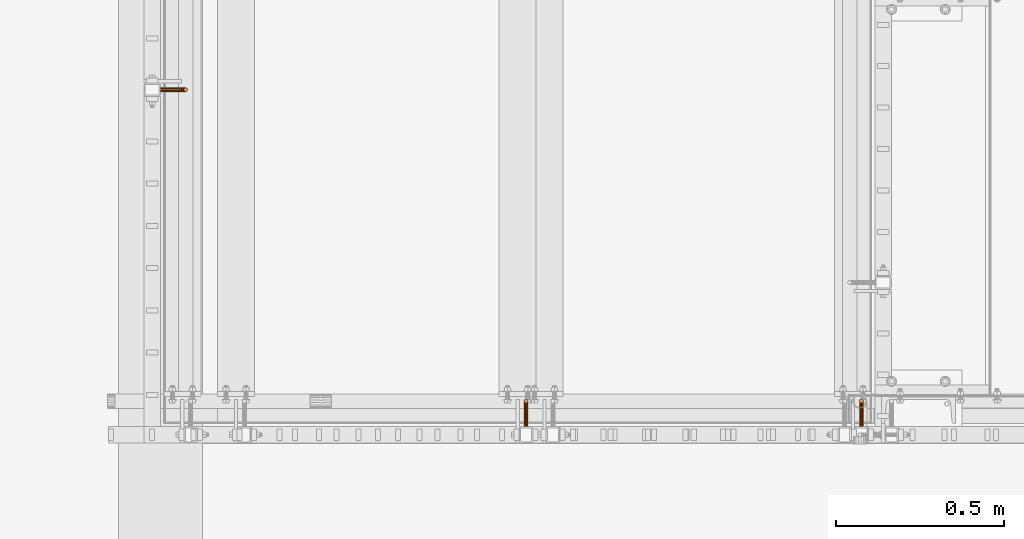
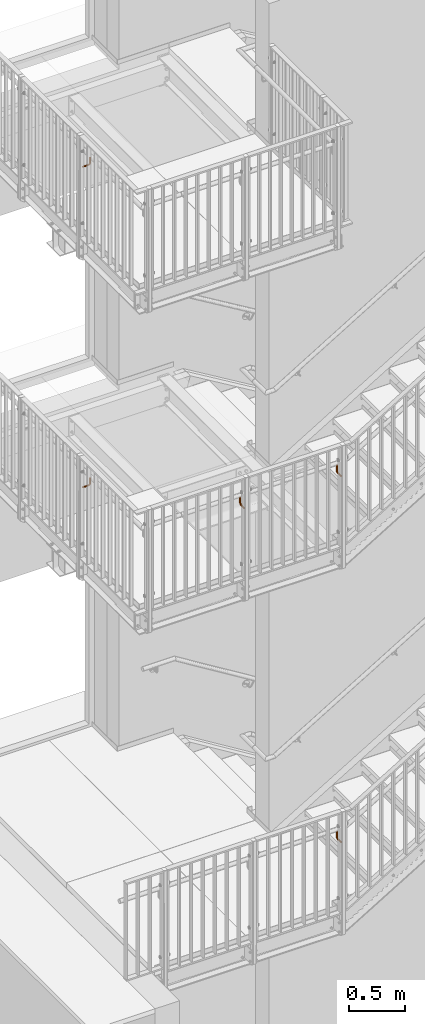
# One storey, part 371 of 410: 5 proxies.
"""IFC2X3 building model written with IfcOpenShell, lengths in millimetres."""

from ifc_helpers import new_model, entity, si_unit, converted_unit, origin_with_axes, place, context, project, spatial, faceted_brep, element, save


model = new_model("IFC2X3")

# Units and contexts
model_context = context("Model", 3, precision=1e-09, world=origin_with_axes())
ifc_project = project(units=[si_unit("LENGTHUNIT", "METRE", prefix="MILLI"), si_unit("AREAUNIT", "SQUARE_METRE"), si_unit("VOLUMEUNIT", "CUBIC_METRE"), converted_unit("PLANEANGLEUNIT", "DEGREE", entity("IfcPlaneAngleMeasure", 0.01745329), si_unit("PLANEANGLEUNIT", "RADIAN"), dimensions=[0, 0, 0, 0, 0, 0, 0])], contexts=[model_context])

# Site, building, storey
site_placement = place(None, origin_with_axes())
site = spatial("IfcSite", under=ifc_project, at=site_placement, Name="mKR Teilneubau & Sanierung BA1 - Ostfildern", CompositionType="ELEMENT")
building_placement = place(site_placement, origin_with_axes())
building = spatial("IfcBuilding", under=site, at=building_placement, Name="Struktur 1", CompositionType="ELEMENT")
storey_placement = place(building_placement, origin_with_axes())
storey = spatial("IfcBuildingStorey", under=building, at=storey_placement, Name="Default Storey", CompositionType="ELEMENT", Elevation=0.0)

# Proxies
proxy_1_placement = place(None, origin_with_axes())
element("IfcBuildingElementProxy", 1, at=proxy_1_placement, inside=storey, ObjectType="-", context=model_context, shape_type="Brep", body=[
    faceted_brep([(-1784.99853167, 15487.999999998, 4738.6), (-1784.99853167, 15430.999999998, 4738.6), (-1781.99853167, 15430.999999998, 4737.796152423), (-1781.99853167, 15487.999999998, 4737.796152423), (-1790.194684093, 15430.999999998, 4729.6), (-1787.99853167, 15430.999999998, 4727.403847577), (-1784.99853167, 15430.999999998, 4726.6), (-1781.99853167, 15430.999999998, 4727.403847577), (-1779.802379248, 15430.999999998, 4729.6), (-1778.99853167, 15430.999999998, 4732.6), (-1779.802379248, 15430.999999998, 4735.6), (-1787.99853167, 15430.999999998, 4737.796152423), (-1790.194684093, 15430.999999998, 4735.6), (-1790.99853167, 15430.999999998, 4732.6), (-1787.99853167, 15487.999999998, 4737.796152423), (-1781.99853167, 15492.899820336, 4738.770787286), (-1784.99853167, 15492.592201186, 4739.51344561), (-1779.802379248, 15487.999999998, 4735.6), (-1787.99853167, 15492.899820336, 4738.770787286), (-1784.99853167, 15496.485281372, 4742.114718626), (-1787.99853167, 15497.053687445, 4741.546312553), (-1781.99853167, 15497.053687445, 4741.546312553), (-1779.802379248, 15493.740251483, 4736.741807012), (-1790.194684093, 15487.999999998, 4735.6), (-1784.99853167, 15499.086554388, 4746.007798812), (-1787.99853167, 15499.829212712, 4745.700179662), (-1787.99853167, 15500.803847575, 4750.6), (-1787.99853167, 15500.803847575, 4807.6), (-1790.194684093, 15502.999999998, 4807.6), (-1790.194684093, 15502.999999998, 4750.6), (-1784.99853167, 15499.999999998, 4750.6), (-1784.99853167, 15499.999999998, 4807.6), (-1778.99853167, 15487.999999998, 4732.6), (-1790.194684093, 15501.858192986, 4744.859748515), (-1790.194684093, 15493.740251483, 4736.741807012), (-1790.194684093, 15498.606601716, 4739.993398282), (-1779.802379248, 15508.999999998, 4807.6), (-1781.99853167, 15511.196152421, 4807.6), (-1784.99853167, 15511.999999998, 4807.6), (-1787.99853167, 15511.196152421, 4807.6), (-1790.194684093, 15508.999999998, 4807.6), (-1790.99853167, 15505.999999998, 4807.6), (-1781.99853167, 15500.803847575, 4807.6), (-1779.802379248, 15502.999999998, 4807.6), (-1778.99853167, 15505.999999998, 4807.6), (-1781.99853167, 15499.829212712, 4745.700179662), (-1778.99853167, 15494.888301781, 4733.970168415), (-1779.802379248, 15498.606601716, 4739.993398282), (-1790.99853167, 15487.999999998, 4732.6), (-1790.99853167, 15505.999999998, 4750.6), (-1781.99853167, 15500.803847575, 4750.6), (-1779.802379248, 15487.999999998, 4729.6), (-1790.99853167, 15504.629831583, 4743.711698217), (-1790.99853167, 15494.888301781, 4733.970168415), (-1790.99853167, 15500.727922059, 4737.872077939), (-1779.802379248, 15501.858192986, 4744.859748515), (-1779.802379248, 15496.036352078, 4731.198529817), (-1778.99853167, 15500.727922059, 4737.872077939), (-1781.99853167, 15487.999999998, 4727.403847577), (-1784.99853167, 15487.999999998, 4726.6), (-1787.99853167, 15487.999999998, 4727.403847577), (-1790.194684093, 15487.999999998, 4729.6), (-1790.194684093, 15508.999999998, 4750.6), (-1779.802379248, 15502.999999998, 4750.6), (-1790.194684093, 15507.401470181, 4742.56364792), (-1790.194684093, 15496.036352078, 4731.198529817), (-1790.194684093, 15502.849242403, 4735.750757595), (-1778.99853167, 15504.629831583, 4743.711698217), (-1781.99853167, 15496.876783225, 4729.169549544), (-1779.802379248, 15502.849242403, 4735.750757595), (-1784.99853167, 15497.184402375, 4728.42689122), (-1787.99853167, 15496.876783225, 4729.169549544), (-1787.99853167, 15511.196152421, 4750.6), (-1778.99853167, 15505.999999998, 4750.6), (-1787.99853167, 15509.430450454, 4741.723216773), (-1787.99853167, 15504.402156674, 4734.197843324), (-1779.802379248, 15507.401470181, 4742.56364792), (-1781.99853167, 15504.402156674, 4734.197843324), (-1784.99853167, 15511.999999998, 4750.6), (-1784.99853167, 15504.970562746, 4733.629437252), (-1779.802379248, 15508.999999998, 4750.6), (-1784.99853167, 15510.173108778, 4741.415597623), (-1781.99853167, 15509.430450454, 4741.723216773), (-1781.99853167, 15511.196152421, 4750.6)], [[[0, 1, 2, 3]], [[4, 5, 6, 7, 8, 9, 10, 2, 1, 11, 12, 13]], [[1, 0, 14, 11]], [[0, 3, 15, 16]], [[3, 2, 10, 17]], [[16, 18, 14, 0]], [[19, 20, 18, 16]], [[16, 15, 21, 19]], [[3, 17, 22, 15]], [[11, 14, 23, 12]], [[20, 19, 24, 25]], [[26, 27, 28, 29]], [[27, 26, 30, 31]], [[17, 10, 9, 32]], [[26, 29, 33, 25]], [[18, 34, 23, 14]], [[20, 35, 34, 18]], [[25, 33, 35, 20]], [[36, 37, 38, 39, 40, 41, 28, 27, 31, 42, 43, 44]], [[25, 24, 30, 26]], [[19, 21, 45, 24]], [[17, 32, 46, 22]], [[15, 22, 47, 21]], [[12, 23, 48, 13]], [[29, 28, 41, 49]], [[31, 30, 50, 42]], [[32, 9, 8, 51]], [[29, 49, 52, 33]], [[34, 53, 48, 23]], [[35, 54, 53, 34]], [[33, 52, 54, 35]], [[24, 45, 50, 30]], [[21, 47, 55, 45]], [[32, 51, 56, 46]], [[22, 46, 57, 47]], [[7, 58, 51, 8]], [[6, 59, 58, 7]], [[5, 60, 59, 6]], [[4, 61, 60, 5]], [[13, 48, 61, 4]], [[49, 41, 40, 62]], [[42, 50, 63, 43]], [[49, 62, 64, 52]], [[53, 65, 61, 48]], [[54, 66, 65, 53]], [[52, 64, 66, 54]], [[45, 55, 63, 50]], [[47, 57, 67, 55]], [[51, 58, 68, 56]], [[46, 56, 69, 57]], [[58, 59, 70, 68]], [[59, 60, 71, 70]], [[60, 61, 65, 71]], [[62, 40, 39, 72]], [[43, 63, 73, 44]], [[62, 72, 74, 64]], [[66, 75, 71, 65]], [[64, 74, 75, 66]], [[55, 67, 73, 63]], [[57, 69, 76, 67]], [[56, 68, 77, 69]], [[72, 39, 38, 78]], [[68, 70, 79, 77]], [[70, 71, 75, 79]], [[44, 73, 80, 36]], [[72, 78, 81, 74]], [[74, 81, 79, 75]], [[67, 76, 80, 73]], [[69, 77, 82, 76]], [[78, 38, 37, 83]], [[77, 79, 81, 82]], [[36, 80, 83, 37]], [[78, 83, 82, 81]], [[76, 82, 83, 80]]]),
])
proxy_2_placement = place(None, origin_with_axes())
element("IfcBuildingElementProxy", 2, at=proxy_2_placement, inside=storey, ObjectType="-", context=model_context, shape_type="Brep", body=[
    faceted_brep([(-1784.99853167, 15487.999999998, 738.6), (-1784.99853167, 15430.999999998, 738.6), (-1781.99853167, 15430.999999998, 737.796152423), (-1781.99853167, 15487.999999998, 737.796152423), (-1790.194684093, 15430.999999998, 729.6), (-1787.99853167, 15430.999999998, 727.403847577), (-1784.99853167, 15430.999999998, 726.6), (-1781.99853167, 15430.999999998, 727.403847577), (-1779.802379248, 15430.999999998, 729.6), (-1778.99853167, 15430.999999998, 732.6), (-1779.802379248, 15430.999999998, 735.6), (-1787.99853167, 15430.999999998, 737.796152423), (-1790.194684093, 15430.999999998, 735.6), (-1790.99853167, 15430.999999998, 732.6), (-1787.99853167, 15487.999999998, 737.796152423), (-1781.99853167, 15492.899820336, 738.770787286), (-1784.99853167, 15492.592201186, 739.51344561), (-1779.802379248, 15487.999999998, 735.6), (-1787.99853167, 15492.899820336, 738.770787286), (-1784.99853167, 15496.485281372, 742.114718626), (-1787.99853167, 15497.053687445, 741.546312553), (-1781.99853167, 15497.053687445, 741.546312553), (-1779.802379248, 15493.740251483, 736.741807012), (-1790.194684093, 15487.999999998, 735.6), (-1784.99853167, 15499.086554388, 746.007798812), (-1787.99853167, 15499.829212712, 745.700179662), (-1787.99853167, 15500.803847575, 750.6), (-1787.99853167, 15500.803847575, 807.6), (-1790.194684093, 15502.999999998, 807.6), (-1790.194684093, 15502.999999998, 750.6), (-1784.99853167, 15499.999999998, 750.6), (-1784.99853167, 15499.999999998, 807.6), (-1778.99853167, 15487.999999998, 732.6), (-1790.194684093, 15501.858192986, 744.859748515), (-1790.194684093, 15493.740251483, 736.741807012), (-1790.194684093, 15498.606601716, 739.993398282), (-1779.802379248, 15508.999999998, 807.6), (-1781.99853167, 15511.196152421, 807.6), (-1784.99853167, 15511.999999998, 807.6), (-1787.99853167, 15511.196152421, 807.6), (-1790.194684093, 15508.999999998, 807.6), (-1790.99853167, 15505.999999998, 807.6), (-1781.99853167, 15500.803847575, 807.6), (-1779.802379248, 15502.999999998, 807.6), (-1778.99853167, 15505.999999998, 807.6), (-1781.99853167, 15499.829212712, 745.700179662), (-1778.99853167, 15494.888301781, 733.970168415), (-1779.802379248, 15498.606601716, 739.993398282), (-1790.99853167, 15487.999999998, 732.6), (-1790.99853167, 15505.999999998, 750.6), (-1781.99853167, 15500.803847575, 750.6), (-1779.802379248, 15487.999999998, 729.6), (-1790.99853167, 15504.629831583, 743.711698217), (-1790.99853167, 15494.888301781, 733.970168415), (-1790.99853167, 15500.727922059, 737.872077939), (-1779.802379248, 15501.858192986, 744.859748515), (-1779.802379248, 15496.036352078, 731.198529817), (-1778.99853167, 15500.727922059, 737.872077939), (-1781.99853167, 15487.999999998, 727.403847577), (-1784.99853167, 15487.999999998, 726.6), (-1787.99853167, 15487.999999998, 727.403847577), (-1790.194684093, 15487.999999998, 729.6), (-1790.194684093, 15508.999999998, 750.6), (-1779.802379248, 15502.999999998, 750.6), (-1790.194684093, 15507.401470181, 742.56364792), (-1790.194684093, 15496.036352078, 731.198529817), (-1790.194684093, 15502.849242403, 735.750757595), (-1778.99853167, 15504.629831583, 743.711698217), (-1781.99853167, 15496.876783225, 729.169549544), (-1779.802379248, 15502.849242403, 735.750757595), (-1784.99853167, 15497.184402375, 728.42689122), (-1787.99853167, 15496.876783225, 729.169549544), (-1787.99853167, 15511.196152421, 750.6), (-1778.99853167, 15505.999999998, 750.6), (-1787.99853167, 15509.430450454, 741.723216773), (-1787.99853167, 15504.402156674, 734.197843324), (-1779.802379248, 15507.401470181, 742.56364792), (-1781.99853167, 15504.402156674, 734.197843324), (-1784.99853167, 15511.999999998, 750.6), (-1784.99853167, 15504.970562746, 733.629437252), (-1779.802379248, 15508.999999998, 750.6), (-1784.99853167, 15510.173108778, 741.415597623), (-1781.99853167, 15509.430450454, 741.723216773), (-1781.99853167, 15511.196152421, 750.6)], [[[0, 1, 2, 3]], [[4, 5, 6, 7, 8, 9, 10, 2, 1, 11, 12, 13]], [[1, 0, 14, 11]], [[0, 3, 15, 16]], [[3, 2, 10, 17]], [[16, 18, 14, 0]], [[19, 20, 18, 16]], [[16, 15, 21, 19]], [[3, 17, 22, 15]], [[11, 14, 23, 12]], [[20, 19, 24, 25]], [[26, 27, 28, 29]], [[27, 26, 30, 31]], [[17, 10, 9, 32]], [[26, 29, 33, 25]], [[18, 34, 23, 14]], [[20, 35, 34, 18]], [[25, 33, 35, 20]], [[36, 37, 38, 39, 40, 41, 28, 27, 31, 42, 43, 44]], [[25, 24, 30, 26]], [[19, 21, 45, 24]], [[17, 32, 46, 22]], [[15, 22, 47, 21]], [[12, 23, 48, 13]], [[29, 28, 41, 49]], [[31, 30, 50, 42]], [[32, 9, 8, 51]], [[29, 49, 52, 33]], [[34, 53, 48, 23]], [[35, 54, 53, 34]], [[33, 52, 54, 35]], [[24, 45, 50, 30]], [[21, 47, 55, 45]], [[32, 51, 56, 46]], [[22, 46, 57, 47]], [[7, 58, 51, 8]], [[6, 59, 58, 7]], [[5, 60, 59, 6]], [[4, 61, 60, 5]], [[13, 48, 61, 4]], [[49, 41, 40, 62]], [[42, 50, 63, 43]], [[49, 62, 64, 52]], [[53, 65, 61, 48]], [[54, 66, 65, 53]], [[52, 64, 66, 54]], [[45, 55, 63, 50]], [[47, 57, 67, 55]], [[51, 58, 68, 56]], [[46, 56, 69, 57]], [[58, 59, 70, 68]], [[59, 60, 71, 70]], [[60, 61, 65, 71]], [[62, 40, 39, 72]], [[43, 63, 73, 44]], [[62, 72, 74, 64]], [[66, 75, 71, 65]], [[64, 74, 75, 66]], [[55, 67, 73, 63]], [[57, 69, 76, 67]], [[56, 68, 77, 69]], [[72, 39, 38, 78]], [[68, 70, 79, 77]], [[70, 71, 75, 79]], [[44, 73, 80, 36]], [[72, 78, 81, 74]], [[74, 81, 79, 75]], [[67, 76, 80, 73]], [[69, 77, 82, 76]], [[78, 38, 37, 83]], [[77, 79, 81, 82]], [[36, 80, 83, 37]], [[78, 83, 82, 81]], [[76, 82, 83, 80]]]),
])
proxy_3_placement = place(None, origin_with_axes())
element("IfcBuildingElementProxy", 3, at=proxy_3_placement, inside=storey, ObjectType="-", context=model_context, shape_type="Brep", body=[
    faceted_brep([(-3817.9485317, 16434.999999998, 4738.6), (-3874.9485317, 16434.999999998, 4738.6), (-3874.9485317, 16431.999999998, 4737.796152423), (-3817.9485317, 16431.999999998, 4737.796152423), (-3874.9485317, 16440.19615242, 4729.6), (-3874.9485317, 16437.999999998, 4727.403847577), (-3874.9485317, 16434.999999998, 4726.6), (-3874.9485317, 16431.999999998, 4727.403847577), (-3874.9485317, 16429.803847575, 4729.6), (-3874.9485317, 16428.999999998, 4732.6), (-3874.9485317, 16429.803847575, 4735.6), (-3874.9485317, 16437.999999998, 4737.796152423), (-3874.9485317, 16440.19615242, 4735.6), (-3874.9485317, 16440.999999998, 4732.6), (-3817.9485317, 16437.999999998, 4737.796152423), (-3813.048711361, 16431.999999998, 4738.770787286), (-3813.356330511, 16434.999999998, 4739.51344561), (-3817.9485317, 16429.803847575, 4735.6), (-3813.048711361, 16437.999999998, 4738.770787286), (-3809.463250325, 16434.999999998, 4742.114718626), (-3808.894844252, 16437.999999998, 4741.546312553), (-3808.894844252, 16431.999999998, 4741.546312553), (-3812.208280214, 16429.803847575, 4736.741807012), (-3817.9485317, 16440.19615242, 4735.6), (-3806.861977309, 16434.999999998, 4746.007798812), (-3806.119318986, 16437.999999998, 4745.700179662), (-3805.144684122, 16437.999999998, 4750.6), (-3805.144684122, 16437.999999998, 4807.6), (-3802.9485317, 16440.19615242, 4807.6), (-3802.9485317, 16440.19615242, 4750.6), (-3805.9485317, 16434.999999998, 4750.6), (-3805.9485317, 16434.999999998, 4807.6), (-3817.9485317, 16428.999999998, 4732.6), (-3804.090338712, 16440.19615242, 4744.859748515), (-3812.208280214, 16440.19615242, 4736.741807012), (-3807.341929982, 16440.19615242, 4739.993398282), (-3796.9485317, 16429.803847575, 4807.6), (-3794.752379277, 16431.999999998, 4807.6), (-3793.9485317, 16434.999999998, 4807.6), (-3794.752379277, 16437.999999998, 4807.6), (-3796.9485317, 16440.19615242, 4807.6), (-3799.9485317, 16440.999999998, 4807.6), (-3805.144684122, 16431.999999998, 4807.6), (-3802.9485317, 16429.803847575, 4807.6), (-3799.9485317, 16428.999999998, 4807.6), (-3806.119318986, 16431.999999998, 4745.700179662), (-3811.060229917, 16428.999999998, 4733.970168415), (-3807.341929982, 16429.803847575, 4739.993398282), (-3817.9485317, 16440.999999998, 4732.6), (-3799.9485317, 16440.999999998, 4750.6), (-3805.144684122, 16431.999999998, 4750.6), (-3817.9485317, 16429.803847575, 4729.6), (-3801.318700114, 16440.999999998, 4743.711698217), (-3811.060229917, 16440.999999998, 4733.970168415), (-3805.220609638, 16440.999999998, 4737.872077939), (-3804.090338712, 16429.803847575, 4744.859748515), (-3809.91217962, 16429.803847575, 4731.198529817), (-3805.220609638, 16428.999999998, 4737.872077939), (-3817.9485317, 16431.999999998, 4727.403847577), (-3817.9485317, 16434.999999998, 4726.6), (-3817.9485317, 16437.999999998, 4727.403847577), (-3817.9485317, 16440.19615242, 4729.6), (-3796.9485317, 16440.19615242, 4750.6), (-3802.9485317, 16429.803847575, 4750.6), (-3798.547061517, 16440.19615242, 4742.56364792), (-3809.91217962, 16440.19615242, 4731.198529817), (-3803.099289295, 16440.19615242, 4735.750757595), (-3801.318700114, 16428.999999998, 4743.711698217), (-3809.071748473, 16431.999999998, 4729.169549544), (-3803.099289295, 16429.803847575, 4735.750757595), (-3808.764129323, 16434.999999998, 4728.42689122), (-3809.071748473, 16437.999999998, 4729.169549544), (-3794.752379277, 16437.999999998, 4750.6), (-3799.9485317, 16428.999999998, 4750.6), (-3796.518081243, 16437.999999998, 4741.723216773), (-3801.546375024, 16437.999999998, 4734.197843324), (-3798.547061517, 16429.803847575, 4742.56364792), (-3801.546375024, 16431.999999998, 4734.197843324), (-3793.9485317, 16434.999999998, 4750.6), (-3800.977968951, 16434.999999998, 4733.629437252), (-3796.9485317, 16429.803847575, 4750.6), (-3795.775422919, 16434.999999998, 4741.415597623), (-3796.518081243, 16431.999999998, 4741.723216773), (-3794.752379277, 16431.999999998, 4750.6)], [[[0, 1, 2, 3]], [[4, 5, 6, 7, 8, 9, 10, 2, 1, 11, 12, 13]], [[1, 0, 14, 11]], [[0, 3, 15, 16]], [[3, 2, 10, 17]], [[16, 18, 14, 0]], [[19, 20, 18, 16]], [[16, 15, 21, 19]], [[3, 17, 22, 15]], [[11, 14, 23, 12]], [[20, 19, 24, 25]], [[26, 27, 28, 29]], [[27, 26, 30, 31]], [[17, 10, 9, 32]], [[26, 29, 33, 25]], [[18, 34, 23, 14]], [[20, 35, 34, 18]], [[25, 33, 35, 20]], [[36, 37, 38, 39, 40, 41, 28, 27, 31, 42, 43, 44]], [[25, 24, 30, 26]], [[19, 21, 45, 24]], [[17, 32, 46, 22]], [[15, 22, 47, 21]], [[12, 23, 48, 13]], [[29, 28, 41, 49]], [[31, 30, 50, 42]], [[32, 9, 8, 51]], [[29, 49, 52, 33]], [[34, 53, 48, 23]], [[35, 54, 53, 34]], [[33, 52, 54, 35]], [[24, 45, 50, 30]], [[21, 47, 55, 45]], [[32, 51, 56, 46]], [[22, 46, 57, 47]], [[7, 58, 51, 8]], [[6, 59, 58, 7]], [[5, 60, 59, 6]], [[4, 61, 60, 5]], [[13, 48, 61, 4]], [[49, 41, 40, 62]], [[42, 50, 63, 43]], [[49, 62, 64, 52]], [[53, 65, 61, 48]], [[54, 66, 65, 53]], [[52, 64, 66, 54]], [[45, 55, 63, 50]], [[47, 57, 67, 55]], [[51, 58, 68, 56]], [[46, 56, 69, 57]], [[58, 59, 70, 68]], [[59, 60, 71, 70]], [[60, 61, 65, 71]], [[62, 40, 39, 72]], [[43, 63, 73, 44]], [[62, 72, 74, 64]], [[66, 75, 71, 65]], [[64, 74, 75, 66]], [[55, 67, 73, 63]], [[57, 69, 76, 67]], [[56, 68, 77, 69]], [[72, 39, 38, 78]], [[68, 70, 79, 77]], [[70, 71, 75, 79]], [[44, 73, 80, 36]], [[72, 78, 81, 74]], [[74, 81, 79, 75]], [[67, 76, 80, 73]], [[69, 77, 82, 76]], [[78, 38, 37, 83]], [[77, 79, 81, 82]], [[36, 80, 83, 37]], [[78, 83, 82, 81]], [[76, 82, 83, 80]]]),
])
proxy_4_placement = place(None, origin_with_axes())
element("IfcBuildingElementProxy", 4, at=proxy_4_placement, inside=storey, ObjectType="-", context=model_context, shape_type="Brep", body=[
    faceted_brep([(-3817.9485317, 16434.999999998, 8238.6), (-3874.9485317, 16434.999999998, 8238.6), (-3874.9485317, 16431.999999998, 8237.796152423), (-3817.9485317, 16431.999999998, 8237.796152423), (-3874.9485317, 16440.19615242, 8229.6), (-3874.9485317, 16437.999999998, 8227.403847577), (-3874.9485317, 16434.999999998, 8226.6), (-3874.9485317, 16431.999999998, 8227.403847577), (-3874.9485317, 16429.803847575, 8229.6), (-3874.9485317, 16428.999999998, 8232.6), (-3874.9485317, 16429.803847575, 8235.6), (-3874.9485317, 16437.999999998, 8237.796152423), (-3874.9485317, 16440.19615242, 8235.6), (-3874.9485317, 16440.999999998, 8232.6), (-3817.9485317, 16437.999999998, 8237.796152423), (-3813.048711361, 16431.999999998, 8238.770787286), (-3813.356330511, 16434.999999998, 8239.51344561), (-3817.9485317, 16429.803847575, 8235.6), (-3813.048711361, 16437.999999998, 8238.770787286), (-3809.463250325, 16434.999999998, 8242.114718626), (-3808.894844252, 16437.999999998, 8241.546312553), (-3808.894844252, 16431.999999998, 8241.546312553), (-3812.208280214, 16429.803847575, 8236.741807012), (-3817.9485317, 16440.19615242, 8235.6), (-3806.861977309, 16434.999999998, 8246.007798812), (-3806.119318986, 16437.999999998, 8245.700179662), (-3805.144684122, 16437.999999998, 8250.6), (-3805.144684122, 16437.999999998, 8307.6), (-3802.9485317, 16440.19615242, 8307.6), (-3802.9485317, 16440.19615242, 8250.6), (-3805.9485317, 16434.999999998, 8250.6), (-3805.9485317, 16434.999999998, 8307.6), (-3817.9485317, 16428.999999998, 8232.6), (-3804.090338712, 16440.19615242, 8244.859748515), (-3812.208280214, 16440.19615242, 8236.741807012), (-3807.341929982, 16440.19615242, 8239.993398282), (-3796.9485317, 16429.803847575, 8307.6), (-3794.752379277, 16431.999999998, 8307.6), (-3793.9485317, 16434.999999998, 8307.6), (-3794.752379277, 16437.999999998, 8307.6), (-3796.9485317, 16440.19615242, 8307.6), (-3799.9485317, 16440.999999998, 8307.6), (-3805.144684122, 16431.999999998, 8307.6), (-3802.9485317, 16429.803847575, 8307.6), (-3799.9485317, 16428.999999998, 8307.6), (-3806.119318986, 16431.999999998, 8245.700179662), (-3811.060229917, 16428.999999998, 8233.970168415), (-3807.341929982, 16429.803847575, 8239.993398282), (-3817.9485317, 16440.999999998, 8232.6), (-3799.9485317, 16440.999999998, 8250.6), (-3805.144684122, 16431.999999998, 8250.6), (-3817.9485317, 16429.803847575, 8229.6), (-3801.318700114, 16440.999999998, 8243.711698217), (-3811.060229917, 16440.999999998, 8233.970168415), (-3805.220609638, 16440.999999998, 8237.872077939), (-3804.090338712, 16429.803847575, 8244.859748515), (-3809.91217962, 16429.803847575, 8231.198529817), (-3805.220609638, 16428.999999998, 8237.872077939), (-3817.9485317, 16431.999999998, 8227.403847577), (-3817.9485317, 16434.999999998, 8226.6), (-3817.9485317, 16437.999999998, 8227.403847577), (-3817.9485317, 16440.19615242, 8229.6), (-3796.9485317, 16440.19615242, 8250.6), (-3802.9485317, 16429.803847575, 8250.6), (-3798.547061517, 16440.19615242, 8242.56364792), (-3809.91217962, 16440.19615242, 8231.198529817), (-3803.099289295, 16440.19615242, 8235.750757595), (-3801.318700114, 16428.999999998, 8243.711698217), (-3809.071748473, 16431.999999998, 8229.169549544), (-3803.099289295, 16429.803847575, 8235.750757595), (-3808.764129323, 16434.999999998, 8228.42689122), (-3809.071748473, 16437.999999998, 8229.169549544), (-3794.752379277, 16437.999999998, 8250.6), (-3799.9485317, 16428.999999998, 8250.6), (-3796.518081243, 16437.999999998, 8241.723216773), (-3801.546375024, 16437.999999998, 8234.197843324), (-3798.547061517, 16429.803847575, 8242.56364792), (-3801.546375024, 16431.999999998, 8234.197843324), (-3793.9485317, 16434.999999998, 8250.6), (-3800.977968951, 16434.999999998, 8233.629437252), (-3796.9485317, 16429.803847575, 8250.6), (-3795.775422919, 16434.999999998, 8241.415597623), (-3796.518081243, 16431.999999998, 8241.723216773), (-3794.752379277, 16431.999999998, 8250.6)], [[[0, 1, 2, 3]], [[4, 5, 6, 7, 8, 9, 10, 2, 1, 11, 12, 13]], [[1, 0, 14, 11]], [[0, 3, 15, 16]], [[3, 2, 10, 17]], [[16, 18, 14, 0]], [[19, 20, 18, 16]], [[16, 15, 21, 19]], [[3, 17, 22, 15]], [[11, 14, 23, 12]], [[20, 19, 24, 25]], [[26, 27, 28, 29]], [[27, 26, 30, 31]], [[17, 10, 9, 32]], [[26, 29, 33, 25]], [[18, 34, 23, 14]], [[20, 35, 34, 18]], [[25, 33, 35, 20]], [[36, 37, 38, 39, 40, 41, 28, 27, 31, 42, 43, 44]], [[25, 24, 30, 26]], [[19, 21, 45, 24]], [[17, 32, 46, 22]], [[15, 22, 47, 21]], [[12, 23, 48, 13]], [[29, 28, 41, 49]], [[31, 30, 50, 42]], [[32, 9, 8, 51]], [[29, 49, 52, 33]], [[34, 53, 48, 23]], [[35, 54, 53, 34]], [[33, 52, 54, 35]], [[24, 45, 50, 30]], [[21, 47, 55, 45]], [[32, 51, 56, 46]], [[22, 46, 57, 47]], [[7, 58, 51, 8]], [[6, 59, 58, 7]], [[5, 60, 59, 6]], [[4, 61, 60, 5]], [[13, 48, 61, 4]], [[49, 41, 40, 62]], [[42, 50, 63, 43]], [[49, 62, 64, 52]], [[53, 65, 61, 48]], [[54, 66, 65, 53]], [[52, 64, 66, 54]], [[45, 55, 63, 50]], [[47, 57, 67, 55]], [[51, 58, 68, 56]], [[46, 56, 69, 57]], [[58, 59, 70, 68]], [[59, 60, 71, 70]], [[60, 61, 65, 71]], [[62, 40, 39, 72]], [[43, 63, 73, 44]], [[62, 72, 74, 64]], [[66, 75, 71, 65]], [[64, 74, 75, 66]], [[55, 67, 73, 63]], [[57, 69, 76, 67]], [[56, 68, 77, 69]], [[72, 39, 38, 78]], [[68, 70, 79, 77]], [[70, 71, 75, 79]], [[44, 73, 80, 36]], [[72, 78, 81, 74]], [[74, 81, 79, 75]], [[67, 76, 80, 73]], [[69, 77, 82, 76]], [[78, 38, 37, 83]], [[77, 79, 81, 82]], [[36, 80, 83, 37]], [[78, 83, 82, 81]], [[76, 82, 83, 80]]]),
])
proxy_5_placement = place(None, origin_with_axes())
element("IfcBuildingElementProxy", 5, at=proxy_5_placement, inside=storey, ObjectType="-", context=model_context, shape_type="Brep", body=[
    faceted_brep([(-2784.99853167, 15487.999999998, 4738.6), (-2784.99853167, 15430.999999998, 4738.6), (-2781.99853167, 15430.999999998, 4737.796152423), (-2781.99853167, 15487.999999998, 4737.796152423), (-2790.194684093, 15430.999999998, 4729.6), (-2787.99853167, 15430.999999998, 4727.403847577), (-2784.99853167, 15430.999999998, 4726.6), (-2781.99853167, 15430.999999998, 4727.403847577), (-2779.802379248, 15430.999999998, 4729.6), (-2778.99853167, 15430.999999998, 4732.6), (-2779.802379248, 15430.999999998, 4735.6), (-2787.99853167, 15430.999999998, 4737.796152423), (-2790.194684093, 15430.999999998, 4735.6), (-2790.99853167, 15430.999999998, 4732.6), (-2787.99853167, 15487.999999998, 4737.796152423), (-2781.99853167, 15492.899820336, 4738.770787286), (-2784.99853167, 15492.592201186, 4739.51344561), (-2779.802379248, 15487.999999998, 4735.6), (-2787.99853167, 15492.899820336, 4738.770787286), (-2784.99853167, 15496.485281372, 4742.114718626), (-2787.99853167, 15497.053687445, 4741.546312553), (-2781.99853167, 15497.053687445, 4741.546312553), (-2779.802379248, 15493.740251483, 4736.741807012), (-2790.194684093, 15487.999999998, 4735.6), (-2784.99853167, 15499.086554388, 4746.007798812), (-2787.99853167, 15499.829212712, 4745.700179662), (-2787.99853167, 15500.803847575, 4750.6), (-2787.99853167, 15500.803847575, 4807.6), (-2790.194684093, 15502.999999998, 4807.6), (-2790.194684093, 15502.999999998, 4750.6), (-2784.99853167, 15499.999999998, 4750.6), (-2784.99853167, 15499.999999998, 4807.6), (-2778.99853167, 15487.999999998, 4732.6), (-2790.194684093, 15501.858192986, 4744.859748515), (-2790.194684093, 15493.740251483, 4736.741807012), (-2790.194684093, 15498.606601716, 4739.993398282), (-2779.802379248, 15508.999999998, 4807.6), (-2781.99853167, 15511.196152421, 4807.6), (-2784.99853167, 15511.999999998, 4807.6), (-2787.99853167, 15511.196152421, 4807.6), (-2790.194684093, 15508.999999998, 4807.6), (-2790.99853167, 15505.999999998, 4807.6), (-2781.99853167, 15500.803847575, 4807.6), (-2779.802379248, 15502.999999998, 4807.6), (-2778.99853167, 15505.999999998, 4807.6), (-2781.99853167, 15499.829212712, 4745.700179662), (-2778.99853167, 15494.888301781, 4733.970168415), (-2779.802379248, 15498.606601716, 4739.993398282), (-2790.99853167, 15487.999999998, 4732.6), (-2790.99853167, 15505.999999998, 4750.6), (-2781.99853167, 15500.803847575, 4750.6), (-2779.802379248, 15487.999999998, 4729.6), (-2790.99853167, 15504.629831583, 4743.711698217), (-2790.99853167, 15494.888301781, 4733.970168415), (-2790.99853167, 15500.727922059, 4737.872077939), (-2779.802379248, 15501.858192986, 4744.859748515), (-2779.802379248, 15496.036352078, 4731.198529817), (-2778.99853167, 15500.727922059, 4737.872077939), (-2781.99853167, 15487.999999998, 4727.403847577), (-2784.99853167, 15487.999999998, 4726.6), (-2787.99853167, 15487.999999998, 4727.403847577), (-2790.194684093, 15487.999999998, 4729.6), (-2790.194684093, 15508.999999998, 4750.6), (-2779.802379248, 15502.999999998, 4750.6), (-2790.194684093, 15507.401470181, 4742.56364792), (-2790.194684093, 15496.036352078, 4731.198529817), (-2790.194684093, 15502.849242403, 4735.750757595), (-2778.99853167, 15504.629831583, 4743.711698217), (-2781.99853167, 15496.876783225, 4729.169549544), (-2779.802379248, 15502.849242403, 4735.750757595), (-2784.99853167, 15497.184402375, 4728.42689122), (-2787.99853167, 15496.876783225, 4729.169549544), (-2787.99853167, 15511.196152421, 4750.6), (-2778.99853167, 15505.999999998, 4750.6), (-2787.99853167, 15509.430450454, 4741.723216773), (-2787.99853167, 15504.402156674, 4734.197843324), (-2779.802379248, 15507.401470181, 4742.56364792), (-2781.99853167, 15504.402156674, 4734.197843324), (-2784.99853167, 15511.999999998, 4750.6), (-2784.99853167, 15504.970562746, 4733.629437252), (-2779.802379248, 15508.999999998, 4750.6), (-2784.99853167, 15510.173108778, 4741.415597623), (-2781.99853167, 15509.430450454, 4741.723216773), (-2781.99853167, 15511.196152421, 4750.6)], [[[0, 1, 2, 3]], [[4, 5, 6, 7, 8, 9, 10, 2, 1, 11, 12, 13]], [[1, 0, 14, 11]], [[0, 3, 15, 16]], [[3, 2, 10, 17]], [[16, 18, 14, 0]], [[19, 20, 18, 16]], [[16, 15, 21, 19]], [[3, 17, 22, 15]], [[11, 14, 23, 12]], [[20, 19, 24, 25]], [[26, 27, 28, 29]], [[27, 26, 30, 31]], [[17, 10, 9, 32]], [[26, 29, 33, 25]], [[18, 34, 23, 14]], [[20, 35, 34, 18]], [[25, 33, 35, 20]], [[36, 37, 38, 39, 40, 41, 28, 27, 31, 42, 43, 44]], [[25, 24, 30, 26]], [[19, 21, 45, 24]], [[17, 32, 46, 22]], [[15, 22, 47, 21]], [[12, 23, 48, 13]], [[29, 28, 41, 49]], [[31, 30, 50, 42]], [[32, 9, 8, 51]], [[29, 49, 52, 33]], [[34, 53, 48, 23]], [[35, 54, 53, 34]], [[33, 52, 54, 35]], [[24, 45, 50, 30]], [[21, 47, 55, 45]], [[32, 51, 56, 46]], [[22, 46, 57, 47]], [[7, 58, 51, 8]], [[6, 59, 58, 7]], [[5, 60, 59, 6]], [[4, 61, 60, 5]], [[13, 48, 61, 4]], [[49, 41, 40, 62]], [[42, 50, 63, 43]], [[49, 62, 64, 52]], [[53, 65, 61, 48]], [[54, 66, 65, 53]], [[52, 64, 66, 54]], [[45, 55, 63, 50]], [[47, 57, 67, 55]], [[51, 58, 68, 56]], [[46, 56, 69, 57]], [[58, 59, 70, 68]], [[59, 60, 71, 70]], [[60, 61, 65, 71]], [[62, 40, 39, 72]], [[43, 63, 73, 44]], [[62, 72, 74, 64]], [[66, 75, 71, 65]], [[64, 74, 75, 66]], [[55, 67, 73, 63]], [[57, 69, 76, 67]], [[56, 68, 77, 69]], [[72, 39, 38, 78]], [[68, 70, 79, 77]], [[70, 71, 75, 79]], [[44, 73, 80, 36]], [[72, 78, 81, 74]], [[74, 81, 79, 75]], [[67, 76, 80, 73]], [[69, 77, 82, 76]], [[78, 38, 37, 83]], [[77, 79, 81, 82]], [[36, 80, 83, 37]], [[78, 83, 82, 81]], [[76, 82, 83, 80]]]),
])

save(model, "model.ifc")
